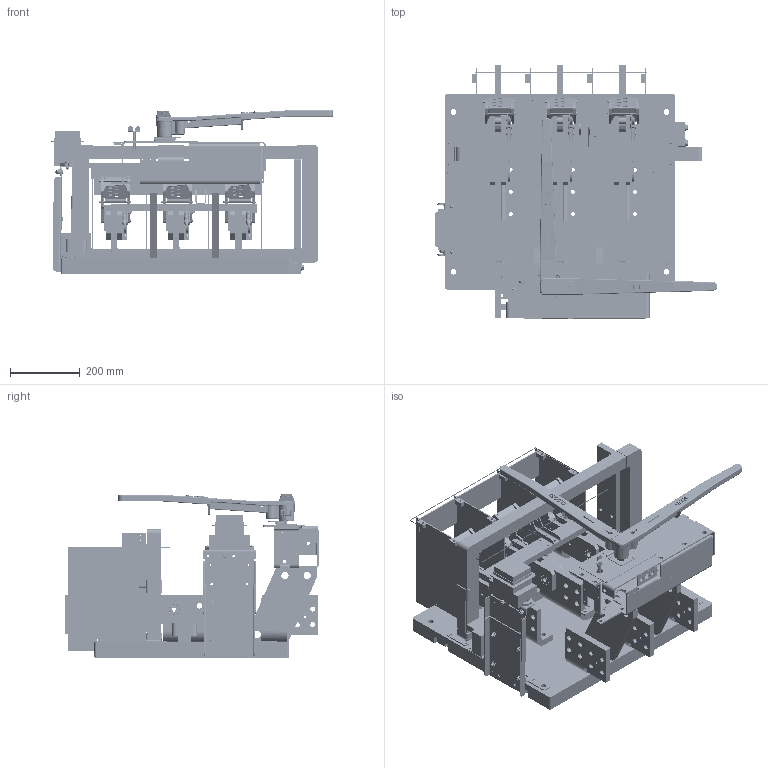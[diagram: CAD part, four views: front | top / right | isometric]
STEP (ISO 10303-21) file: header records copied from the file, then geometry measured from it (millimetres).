
FILE_DESCRIPTION(/* description */ (''),/* implementation_level */ '2;1');
FILE_NAME(/* name */ 'H:\switches\3d-templates\catalog-switches-iges-files\CATALOG-VL3612G5.stp',/* time_stamp */ '2022-03-23T15:32:13-05:00',/* author */ ('MKingston'),/* organization */ (''),/* preprocessor_version */ 'ST-DEVELOPER v18.1',/* originating_system */ 'Autodesk Inventor 2022',/* authorisation */ '');
FILE_SCHEMA (('AUTOMOTIVE_DESIGN { 1 0 10303 214 3 1 1 }'));
Products named in the file (74): vl3612; 277; 671-dx; 671-cx; 671-EX; CATALOG-59-qd-arc-chute-assy; 50-ql; 50-qr; 59-qd-f; 363-a; 363-b; 59-QG; Bolted Connection; ANSI B18.6.3 - 8 - 32 x 3 1/2 SR HMS; ANSI B18.2.2 - 8 - 32, HMSNI; Bolted Connection_1; ANSI B18.6.3 - 8 - 32 x 1/2 SR HMS; Bolted Connection_2; ANSI B18.6.3 - 8 - 32 x 5/8 SR HMS; Bolted Connection_3; Bolted Connection_4; Unbrako - 1/4 x 1 1/2(2); CATALOG-3000amp-blade-assy; 671-A; 671-B; 69-gc3; 67-fc3; 70-M; 67-j; ANSI/ASM B18.1.1 - 1/4 x 3/4; ANSI/ASM B18.1.1 - 3/16 x 11/16; 235-b; 230-a; 255-z; 246-a; 255-bha; 255-c; 178-c; 178-b; 800-bck2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
Assembly tree (140 placements, depth 4):
  vl3612
    277
    671-dx  x3
    671-cx  x3
    671-EX  x3
    CATALOG-59-qd-arc-chute-assy  x3
      50-ql
      50-qr
      59-qd-f
      363-a
      363-b
      59-QG
      Bolted Connection
        ANSI B18.6.3 - 8 - 32 x 3 1/2 SR HMS  x2
        ANSI B18.2.2 - 8 - 32, HMSNI  x2
      Bolted Connection_1
        ANSI B18.6.3 - 8 - 32 x 1/2 SR HMS  x2
      Bolted Connection_2
        ANSI B18.6.3 - 8 - 32 x 5/8 SR HMS  x2
      Bolted Connection_3
        Unbrako - 1/4 x 1 1/2(2)
      Bolted Connection_4
        Unbrako - 1/4 x 1 1/2(2)
    CATALOG-3000amp-blade-assy  x3
      671-A
      671-B
      69-gc3
      67-fc3
      67-j
      70-M
      ANSI/ASM B18.1.1 - 1/4 x 3/4
      ANSI/ASM B18.1.1 - 3/16 x 11/16
    235-b
    230-a
    255-bha  x4
    255-z
    246-a  x2
    255-c
    178-c  x8
    178-b  x8
    800-bck2
    800-fck-1
    221-kpa
    452
    481-a
    gfi-ring-assembly
      GFS10X24
      277-ma
    gfr-1-mounting-assembly
      277-L1T
      277-l2
      277-l3
      277-l4
      gfr-1
      Bolted Connection_5
        ANSI B18.22.1 - No. 10 - Type A  x4
        ASME B18.21.1 - No. 10. Carbon Steel, ETLWTB(1)  x4
        ANSI B18.6.3 - 10 - 32 x 7/8 SR HMS  x2
        ANSI B18.2.2 - 10 - 32, HMSNI  x2
      Bolted Connection_6
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Bounding box: 807.21 x 725.27 x 467.84 mm (x, y, z)
Volume: 23150439.4 mm3; surface area: 4723029.4 mm2
Topology: 191 solids, 192 shells, 5696 faces, 14274 edges, 9268 vertices
Faces by surface type: plane 2854, cylinder 1827, cone 736, bspline 153, torus 100, sphere 26
Full cylindrical faces by diameter (mm): 1.702 x8, 3.175 x4, 3.302 x32, 3.581 x2, 3.683 x8, 3.962 x11, 4.089 x4, 4.166 x18, 4.366 x2, 4.496 x24, 4.653 x4, 4.762 x49, 4.775 x8, 4.801 x8, 4.826 x2, 4.902 x14, 4.915 x24, 4.953 x4, 4.978 x15, 5.462 x4, 5.537 x3, 5.556 x5, 5.563 x4, 5.791 x6, 6.35 x29, 6.528 x47, 7.137 x8, 7.144 x20, 7.798 x2, 7.938 x4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
Entity records: 111013 total; most frequent: CARTESIAN_POINT 27550, DIRECTION 16963, ORIENTED_EDGE 16438, EDGE_CURVE 8227, AXIS2_PLACEMENT_3D 6005, VERTEX_POINT 5343, LINE 4953, VECTOR 4953
